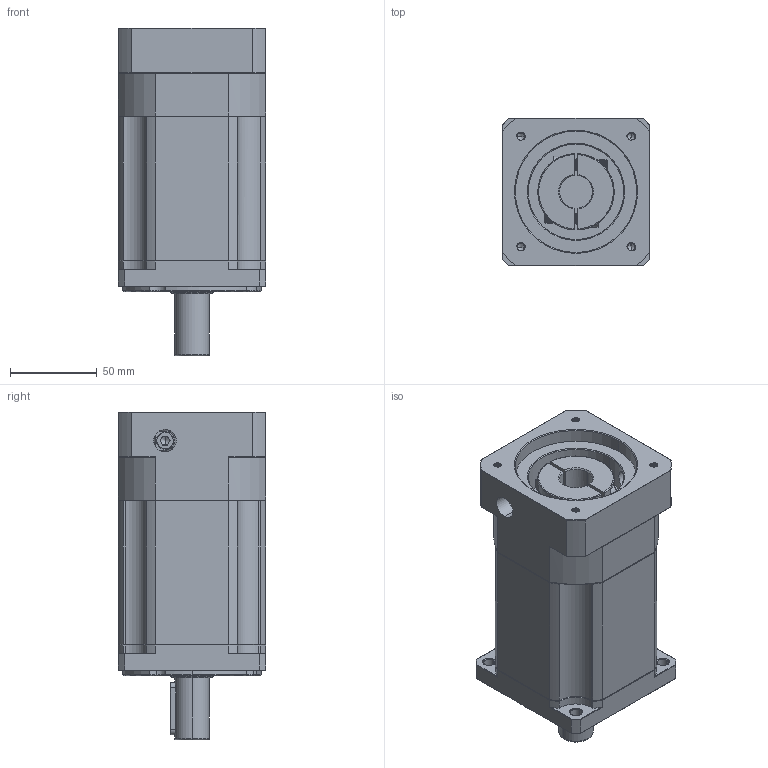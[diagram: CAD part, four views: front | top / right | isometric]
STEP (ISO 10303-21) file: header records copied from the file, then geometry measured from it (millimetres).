
FILE_DESCRIPTION (( 'STEP AP214' ), '1' );
FILE_NAME ('ZB090-D20-L3-P2-19-70-90-M5.step', '2023-08-18T12:11:42', ( '' ), ( '' ), 'SwSTEP 2.0', 'SolidWorks 2016', '' );
FILE_SCHEMA (( 'AUTOMOTIVE_DESIGN' ));
Length unit declared in the file: millimetre
Products named in the file (1): ZB090-D20-L3-P2-19-70-90-M5
Bounding box: 85 x 85 x 189 mm (x, y, z)
Volume: 913349.2 mm3; surface area: 99207.5 mm2
Topology: 4 solids, 4 shells, 2189 faces, 5845 edges, 3738 vertices
Faces by surface type: plane 1056, bspline 412, cylinder 390, cone 319, torus 12
Entity records: 119870 total; most frequent: CARTESIAN_POINT 44705, ORIENTED_EDGE 11646, DIRECTION 9008, EDGE_CURVE 5823, VERTEX_POINT 3738, LINE 3706, VECTOR 3706, AXIS2_PLACEMENT_3D 2651
